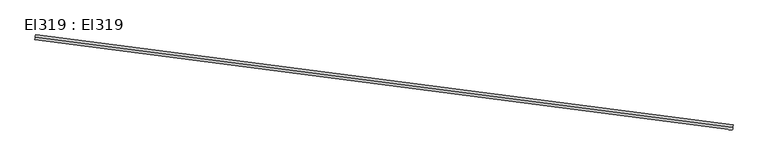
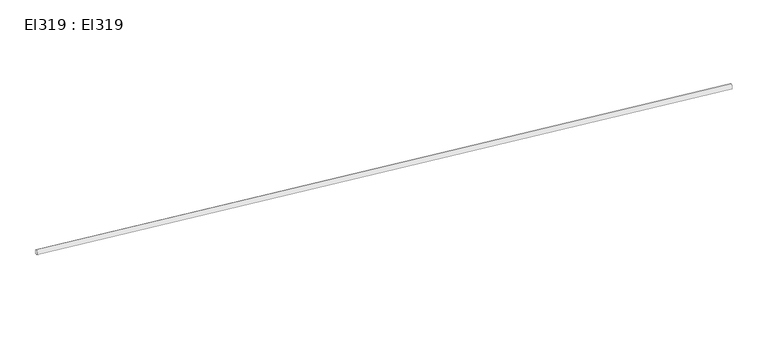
"""IFC4 building model written with IfcOpenShell, lengths in millimetres: cable carrier segment geometry, El319 : El319."""

import ifcopenshell
import ifcopenshell.guid

model = None  # the IFC model being written
_history = None  # IfcOwnerHistory: only IFC2X3 demands one
_inside = {}  # id of a spatial element -> (the spatial element, [elements in it])
_under = {}  # id of a project, library or spatial element -> (it, [spatial elements below it])
_declared = {}  # id of a project -> (the project, [libraries it declares])
_typed = {}  # id of a type object -> (the type object, [elements of that type])
_made_of = {}  # id of a material, layer set ... -> (it, [elements and type objects made of it])


def new_model(schema):
    """Start an empty IFC model of exactly this schema.

    Asked for "IFC4X3", IfcOpenShell would pick the latest addendum, in which some entities
    have other attributes; the version numbers below select the first issue.
    IFC2X3 requires an IfcOwnerHistory on every rooted entity: one is made here for all.
    """
    global model, _history
    if schema == "IFC4X3":
        model = ifcopenshell.file(schema_version=(4, 3, 0, 0))
    else:
        model = ifcopenshell.file(schema=schema)
    _inside.clear()
    _under.clear()
    _declared.clear()
    _typed.clear()
    _made_of.clear()
    _history = None
    if model.schema == "IFC2X3":
        org = make("IfcOrganization", Name="unknown")
        user = make(
            "IfcPersonAndOrganization",
            ThePerson=make("IfcPerson", FamilyName="unknown"),
            TheOrganization=org,
        )
        app = make(
            "IfcApplication",
            ApplicationDeveloper=org,
            Version="unknown",
            ApplicationFullName="unknown",
            ApplicationIdentifier="unknown",
        )
        _history = make(
            "IfcOwnerHistory",
            OwningUser=user,
            OwningApplication=app,
            ChangeAction="ADDED",
            CreationDate=0,
        )
    return model


def make(cls, **values):
    """One entity of the class cls with the attributes given. An attribute that is None is left unset."""
    return model.create_entity(
        cls, **{name: value for name, value in values.items() if value is not None}
    )


def rooted(cls, **values):
    """An entity with a GlobalId (a new one), such as an element, a storey or a relation."""
    return make(cls, GlobalId=ifcopenshell.guid.new(), OwnerHistory=_history, **values)


def si_unit(unit_type, name, prefix=None):
    """IfcSIUnit, for example si_unit("LENGTHUNIT", "METRE", prefix="MILLI")."""
    return make("IfcSIUnit", UnitType=unit_type, Prefix=prefix, Name=name)


def assignment(units):
    """IfcUnitAssignment: the units of a project."""
    return None if units is None else make("IfcUnitAssignment", Units=units)


def point(xyz):
    """IfcCartesianPoint."""
    return None if xyz is None else make("IfcCartesianPoint", Coordinates=xyz)


def direction(xyz):
    """IfcDirection."""
    return None if xyz is None else make("IfcDirection", DirectionRatios=xyz)


def frame(location, z_axis=None, x_axis=None):
    """IfcAxis2Placement3D, a coordinate frame: its origin and axes. An axis left out is left unset."""
    return make(
        "IfcAxis2Placement3D",
        Location=point(location),
        Axis=direction(z_axis),
        RefDirection=direction(x_axis),
    )


def frame_2d(location, x_axis=None):
    """IfcAxis2Placement2D, a coordinate frame in the plane: its origin and x axis."""
    return make(
        "IfcAxis2Placement2D", Location=point(location), RefDirection=direction(x_axis)
    )


def origin():
    """The frame at (0, 0, 0) with its axes left unset."""
    return frame((0.0, 0.0, 0.0))


def place(relative_to, where):
    """IfcLocalPlacement: puts the frame where relative to a parent placement (None: the world)."""
    return make(
        "IfcLocalPlacement", PlacementRelTo=relative_to, RelativePlacement=where
    )


def context(
    kind, dimensions, precision=None, world=None, true_north=None, identifier=None
):
    """IfcGeometricRepresentationContext, for example the 3D "Model" context."""
    return make(
        "IfcGeometricRepresentationContext",
        ContextIdentifier=identifier,
        ContextType=kind,
        CoordinateSpaceDimension=dimensions,
        Precision=precision,
        WorldCoordinateSystem=world,
        TrueNorth=true_north,
    )


def project(units=None, contexts=None):
    """IfcProject with its units and contexts."""
    return rooted(
        "IfcProject",
        Name="project",
        RepresentationContexts=contexts,
        UnitsInContext=assignment(units),
    )


def spatial(cls, under=None, at=None, **own):
    """A site, building, storey or space (cls), placed at a placement, below another one or the project."""
    s = rooted(cls, ObjectPlacement=at, **own)
    if under is not None:
        _under.setdefault(under.id(), (under, []))[1].append(s)
    return s


def circle_curve(where, radius):
    """IfcCircle in the frame where."""
    return make("IfcCircle", Position=where, Radius=radius)


def trimmed(basis, trim1, trim2, sense, master):
    """IfcTrimmedCurve: the piece of a basis curve between two trims."""
    return make(
        "IfcTrimmedCurve",
        BasisCurve=basis,
        Trim1=trim1,
        Trim2=trim2,
        SenseAgreement=sense,
        MasterRepresentation=master,
    )


def segment(curve, same_sense, transition):
    """IfcCompositeCurveSegment."""
    return make(
        "IfcCompositeCurveSegment",
        Transition=transition,
        SameSense=same_sense,
        ParentCurve=curve,
    )


def composite_curve(segments, self_intersect=None):
    """IfcCompositeCurve: segments joined end to end."""
    return make("IfcCompositeCurve", Segments=segments, SelfIntersect=self_intersect)


def outline(outer, holes=None, kind="AREA"):
    """IfcArbitraryClosedProfileDef: a profile drawn as a closed curve; with holes, ...WithVoids."""
    if holes is None:
        return make("IfcArbitraryClosedProfileDef", ProfileType=kind, OuterCurve=outer)
    return make(
        "IfcArbitraryProfileDefWithVoids",
        ProfileType=kind,
        OuterCurve=outer,
        InnerCurves=holes,
    )


def extrude(swept, where, along, depth):
    """IfcExtrudedAreaSolid: the profile swept, set in the frame where, extruded along a direction by depth."""
    return make(
        "IfcExtrudedAreaSolid",
        SweptArea=swept,
        Position=where,
        ExtrudedDirection=direction(along),
        Depth=depth,
    )


def shape(context_of_items, identifier, shape_type, items):
    """IfcShapeRepresentation: the items that make up one representation, for example the "Body"."""
    return make(
        "IfcShapeRepresentation",
        ContextOfItems=context_of_items,
        RepresentationIdentifier=identifier,
        RepresentationType=shape_type,
        Items=items,
    )


def source(mapping_origin, context_of_items, identifier, shape_type, items):
    """IfcRepresentationMap: a shape defined once, which mapped items show again and again."""
    return make(
        "IfcRepresentationMap",
        MappingOrigin=mapping_origin,
        MappedRepresentation=shape(context_of_items, identifier, shape_type, items),
    )


def transform(
    local_origin,
    x_axis=None,
    y_axis=None,
    z_axis=None,
    scale=None,
    scale2=None,
    scale3=None,
    uniform=True,
):
    """IfcCartesianTransformationOperator3D, or its non-uniform kind. x_axis, y_axis, z_axis: its Axis1, 2, 3."""
    if uniform:
        return make(
            "IfcCartesianTransformationOperator3D",
            Axis1=direction(x_axis),
            Axis2=direction(y_axis),
            LocalOrigin=point(local_origin),
            Scale=scale,
            Axis3=direction(z_axis),
        )
    return make(
        "IfcCartesianTransformationOperator3DnonUniform",
        Axis1=direction(x_axis),
        Axis2=direction(y_axis),
        LocalOrigin=point(local_origin),
        Scale=scale,
        Axis3=direction(z_axis),
        Scale2=scale2,
        Scale3=scale3,
    )


def mapped(mapping_source, mapping_target):
    """IfcMappedItem: shows the shape of a source again, moved by a transform."""
    return make(
        "IfcMappedItem", MappingSource=mapping_source, MappingTarget=mapping_target
    )


def made_of(thing, what):
    """Note that an element or type object is made of a material, layer set ...; save() writes the relation."""
    if what is not None:
        _made_of.setdefault(what.id(), (what, []))[1].append(thing)
    return thing


def element(
    cls,
    number,
    at=None,
    inside=None,
    cuts=None,
    type_object=None,
    material=None,
    context=None,
    identifier="Body",
    shape_type=None,
    held_by="IfcProductDefinitionShape",
    body=None,
    shapes=None,
    **own,
):
    """One element of the class cls, such as IfcWall. Its Tag is "e" and its number.

    at: its placement. inside: the storey or other place that contains it. cuts: it is an
    opening in that element (IfcRelVoidsElement). A single representation is given by context,
    identifier, shape_type and body (its items); several are given by shapes. held_by: the class
    of the entity that holds the representations. save() writes the other relations.
    """
    e = rooted(cls, Tag="e%d" % number, ObjectPlacement=at, **own)
    if body is not None:
        shapes = [shape(context, identifier, shape_type, body)]
    if shapes is not None:
        e.Representation = make(held_by, Representations=shapes)
    if inside is not None:
        _inside.setdefault(inside.id(), (inside, []))[1].append(e)
    if cuts is not None:
        rooted(
            "IfcRelVoidsElement", RelatingBuildingElement=cuts, RelatedOpeningElement=e
        )
    if type_object is not None:
        _typed.setdefault(type_object.id(), (type_object, []))[1].append(e)
    return made_of(e, material)


def aggregate(whole, parts):
    """IfcRelAggregates: a whole, such as a stair, and the parts it consists of."""
    return rooted("IfcRelAggregates", RelatingObject=whole, RelatedObjects=parts)


def save(model, path):
    """Write the relations noted so far, then the file.

    IfcRelAggregates (storeys below a building ...), IfcRelContainedInSpatialStructure (elements
    in a storey), IfcRelDefinesByType, IfcRelAssociatesMaterial and IfcRelDeclares: one each for
    every whole, place, type object, material and project.
    """
    for whole, parts in _under.values():
        aggregate(whole, parts)
    for where, things in _inside.values():
        rooted(
            "IfcRelContainedInSpatialStructure",
            RelatedElements=things,
            RelatingStructure=where,
        )
    for kind, things in _typed.values():
        rooted("IfcRelDefinesByType", RelatedObjects=things, RelatingType=kind)
    for what, things in _made_of.values():
        rooted("IfcRelAssociatesMaterial", RelatedObjects=things, RelatingMaterial=what)
    for by, libraries in _declared.values():
        rooted("IfcRelDeclares", RelatingContext=by, RelatedDefinitions=libraries)
    model.write(path)


def el319_el319_d0623b23(model_context):
    return source(origin(), model_context, "Body", "SweptSolid", [
        extrude(outline(composite_curve([segment(trimmed(circle_curve(frame_2d((0.0, -9.5)), 9.5), [point((0.0, -19.0))], [point((0.0, 0.0))], False, "CARTESIAN"), True, "CONTINUOUS"), segment(trimmed(circle_curve(frame_2d((0.0, -9.5)), 9.5), [point((0.0, 0.0))], [point((0.0, -19.0))], False, "CARTESIAN"), True, "CONTINUOUS")], self_intersect=False)), frame((27610.9885705, 16168.5919411, 2959.5), z_axis=(-0.9916970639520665, 0.12859600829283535, 0.0), x_axis=(-0.12859600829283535, -0.9916970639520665, 0.0)), (0.0, 0.0, 1.0), 2664.29),
    ])


if __name__ == "__main__":
    model = new_model("IFC4")
    model_context = context("Model", 3, world=origin())
    ifc_project = project(units=[si_unit("LENGTHUNIT", "METRE", prefix="MILLI")], contexts=[model_context])
    site = spatial("IfcSite", under=ifc_project)
    building = spatial("IfcBuilding", under=site)
    placement = place(None, origin())
    el319_el319_shape = el319_el319_d0623b23(model_context)
    element("IfcCableCarrierSegment", 1, ObjectType="El319 : El319", at=placement, inside=building, context=model_context, shape_type="MappedRepresentation", body=[
        mapped(el319_el319_shape, transform((0.0, 0.0, 0.0), x_axis=(1.0, 0.0, 0.0), y_axis=(0.0, 1.0, 0.0), z_axis=(0.0, 0.0, 1.0))),
    ])
    save(model, "model.ifc")
